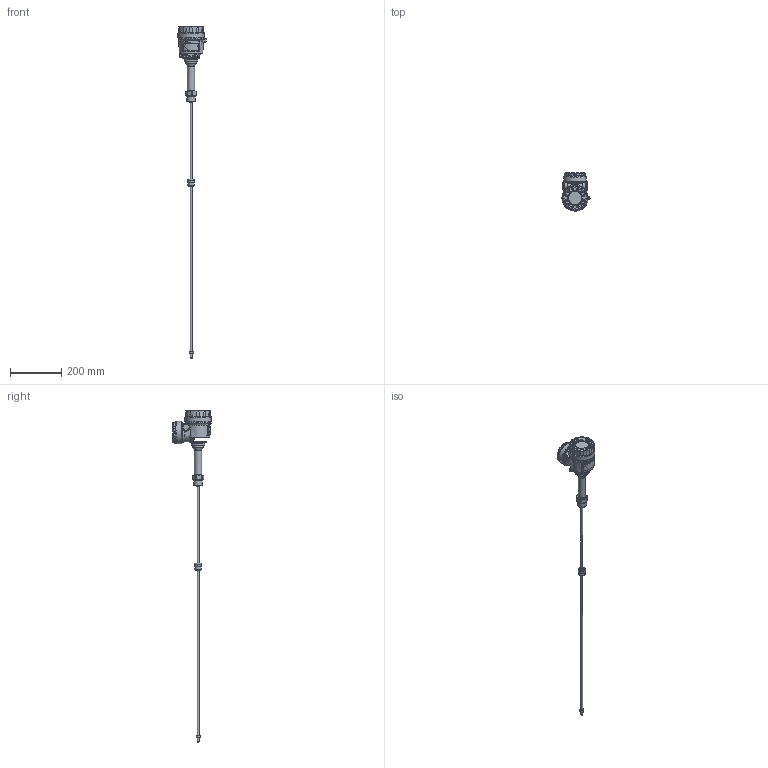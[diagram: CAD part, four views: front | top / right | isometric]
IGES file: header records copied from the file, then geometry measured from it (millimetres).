
Global section: file name: M_RN_Aszer_1,5col; native system: Autodesk Inventor 2015; preprocessor: unknown; author: aantal; date: 20150529.141601; units: millimetre
Bounding box: 109.65 x 149.65 x 1299.2 mm (x, y, z)
Volume: 1198979.5 mm3; surface area: 192869.9 mm2
Topology: 16 solids, 23 shells, 1653 faces, 3973 edges, 2330 vertices
Faces by surface type: bspline 1653
